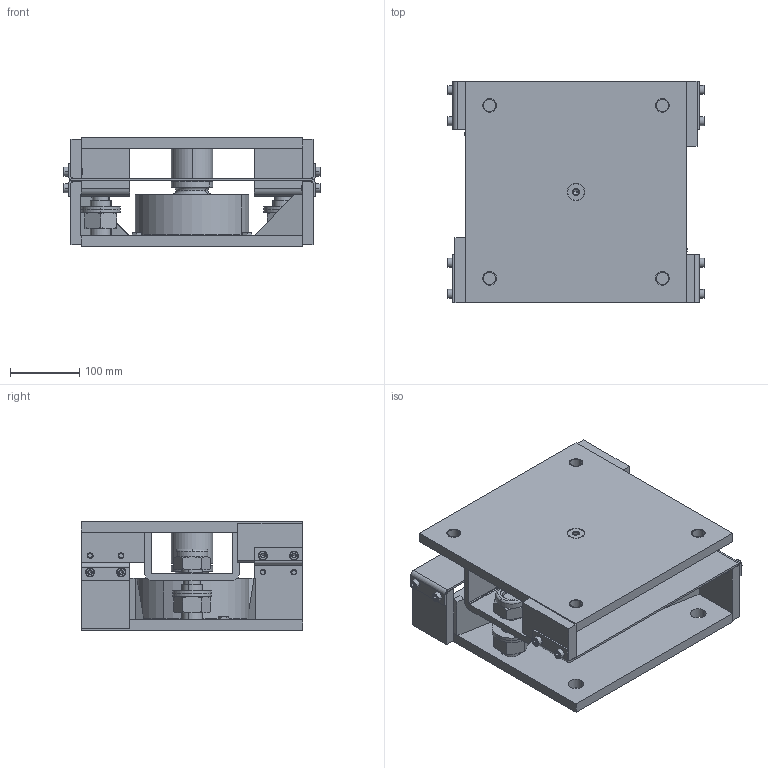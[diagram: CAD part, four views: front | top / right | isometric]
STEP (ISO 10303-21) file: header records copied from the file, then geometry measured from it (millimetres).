
FILE_DESCRIPTION((''),'1');
FILE_NAME('LMLAW_100000_kg.step','2020-05-18T09:58:12',(''),(''),'','','');
FILE_SCHEMA(('AUTOMOTIVE_DESIGN { 1 0 10303 214 1 1 1 1 }'));
Products named in the file (20): LMLAW plate 01; LMLAW base 01; LMLAW part 02; LMLAW plate 02; LMLAW part 03; LMLAW 100000_kg; LMLAW part 04; LMLAW load cell 01; LMLAW body 01; LMLAW cable gland 01; LMLAW plate 03; LMLAW base 03; LMLAW plate 04; LMLAW pin 01; LMLAW screw 01; LMLAW screw 02; LMLAW screw 03; LMLAW nut 01; LMLAW screw 04; LMLAW nut 02
Assembly tree (38 placements, depth 3):
  LMLAW 100000_kg
    LMLAW plate 01
      LMLAW base 01
      LMLAW part 02  x2
      LMLAW plate 02  x2
      LMLAW part 03
    LMLAW part 04  x2
    LMLAW load cell 01
      LMLAW body 01
      LMLAW cable gland 01
    LMLAW plate 03
      LMLAW base 03
      LMLAW plate 04  x2
      LMLAW pin 01  x2
    LMLAW screw 01
    LMLAW screw 02  x3
    LMLAW screw 03  x8
    LMLAW nut 01  x2
    LMLAW screw 04  x4
    LMLAW nut 02  x2
Bounding box: 372 x 320 x 157 mm (x, y, z)
Volume: 5647815.5 mm3; surface area: 941073.4 mm2
Topology: 37 solids, 59 shells, 869 faces, 2099 edges, 1334 vertices
Faces by surface type: plane 297, cylinder 272, cone 228, torus 70, sphere 2
Entity records: 12762 total; most frequent: DIRECTION 2252, CARTESIAN_POINT 2224, ORIENTED_EDGE 1862, EDGE_CURVE 963, AXIS2_PLACEMENT_3D 912, VERTEX_POINT 609, EDGE_LOOP 486, CIRCLE 447
